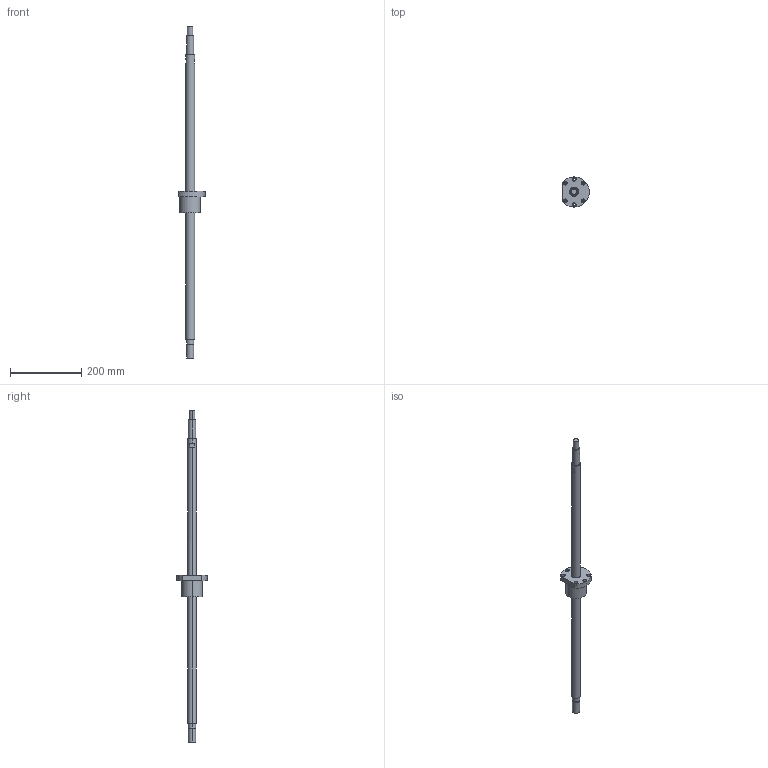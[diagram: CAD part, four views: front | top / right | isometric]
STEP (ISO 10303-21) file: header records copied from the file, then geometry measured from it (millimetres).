
FILE_DESCRIPTION((''),'2;1');
FILE_NAME('R25-10K4-FSC-770-933','2008-04-03T',('wcwu'),(''),'PRO/ENGINEER BY PARAMETRIC TECHNOLOGY CORPORATION, 2005070','PRO/ENGINEER BY PARAMETRIC TECHNOLOGY CORPORATION, 2005070','');
FILE_SCHEMA(('CONFIG_CONTROL_DESIGN'));
Length unit declared in the file: millimetre
Products named in the file (1): R25-10K4-FSC-770-933
Bounding box: 74.5 x 84.99 x 933 mm (x, y, z)
Volume: 593561.2 mm3; surface area: 90814.4 mm2
Topology: 1 solids, 1 shells, 64 faces, 144 edges, 96 vertices
Faces by surface type: cylinder 41, plane 23
Entity records: 1900 total; most frequent: DIRECTION 362, CARTESIAN_POINT 304, ORIENTED_EDGE 288, AXIS2_PLACEMENT_3D 154, EDGE_CURVE 144, VERTEX_POINT 96, EDGE_LOOP 90, CIRCLE 90
